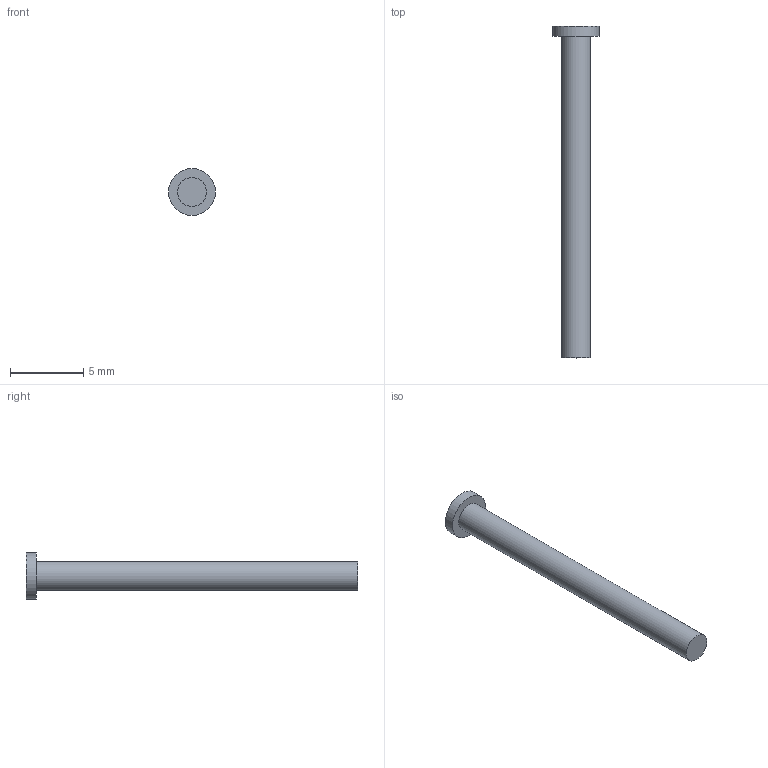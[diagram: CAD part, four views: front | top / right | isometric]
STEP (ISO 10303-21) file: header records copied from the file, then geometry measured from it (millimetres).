
FILE_DESCRIPTION(('Open CASCADE Model'),'2;1');
FILE_NAME('short-pivot-m2x22-low-head-screw.step','2026-11-14T14:31:59', ('Author'),('Open CASCADE'),'Open CASCADE STEP processor 8.0', 'Open CASCADE 8.0','Unknown');
FILE_SCHEMA(('AP242_MANAGED_MODEL_BASED_3D_ENGINEERING_MIM_LF {1 0 10303 442 1 1 4 }' ));
Length unit declared in the file: millimetre
Products named in the file (1): Short Pivot M2x22 Low Head Screw
Bounding box: 3.2 x 22.7 x 3.2 mm (x, y, z)
Volume: 72.7 mm3; surface area: 162 mm2
Topology: 1 solids, 1 shells, 12 faces, 24 edges, 16 vertices
Faces by surface type: plane 10, cylinder 2
Full cylindrical faces by diameter (mm): 1.98 x1, 3.2 x1
Entity records: 634 total; most frequent: DIRECTION 102, CARTESIAN_POINT 101, LINE 64, VECTOR 64, ORIENTED_EDGE 48, PCURVE 48, DEFINITIONAL_REPRESENTATION 48, EDGE_CURVE 24
